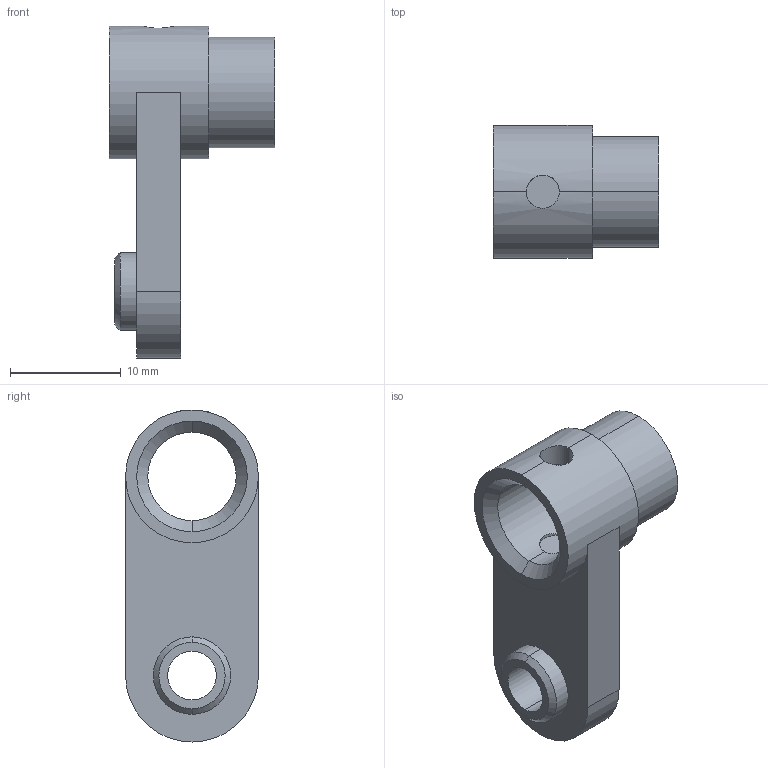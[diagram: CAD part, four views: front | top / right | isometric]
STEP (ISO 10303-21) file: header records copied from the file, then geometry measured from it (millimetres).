
FILE_DESCRIPTION (( 'STEP AP214' ), '1' );
FILE_NAME ('換雄璃1.STEP', '2024-11-14T11:34:45', ( '' ), ( '' ), 'SwSTEP 2.0', 'SolidWorks 2021', '' );
FILE_SCHEMA (( 'AUTOMOTIVE_DESIGN' ));
Length unit declared in the file: millimetre
Products named in the file (1): 換雄璃1
Bounding box: 15 x 12 x 30 mm (x, y, z)
Volume: 1553.8 mm3; surface area: 1689 mm2
Topology: 1 solids, 1 shells, 29 faces, 69 edges, 42 vertices
Faces by surface type: cylinder 16, plane 9, cone 4
Entity records: 1027 total; most frequent: CARTESIAN_POINT 293, DIRECTION 157, ORIENTED_EDGE 138, EDGE_CURVE 69, AXIS2_PLACEMENT_3D 64, VERTEX_POINT 42, EDGE_LOOP 35, CIRCLE 34
